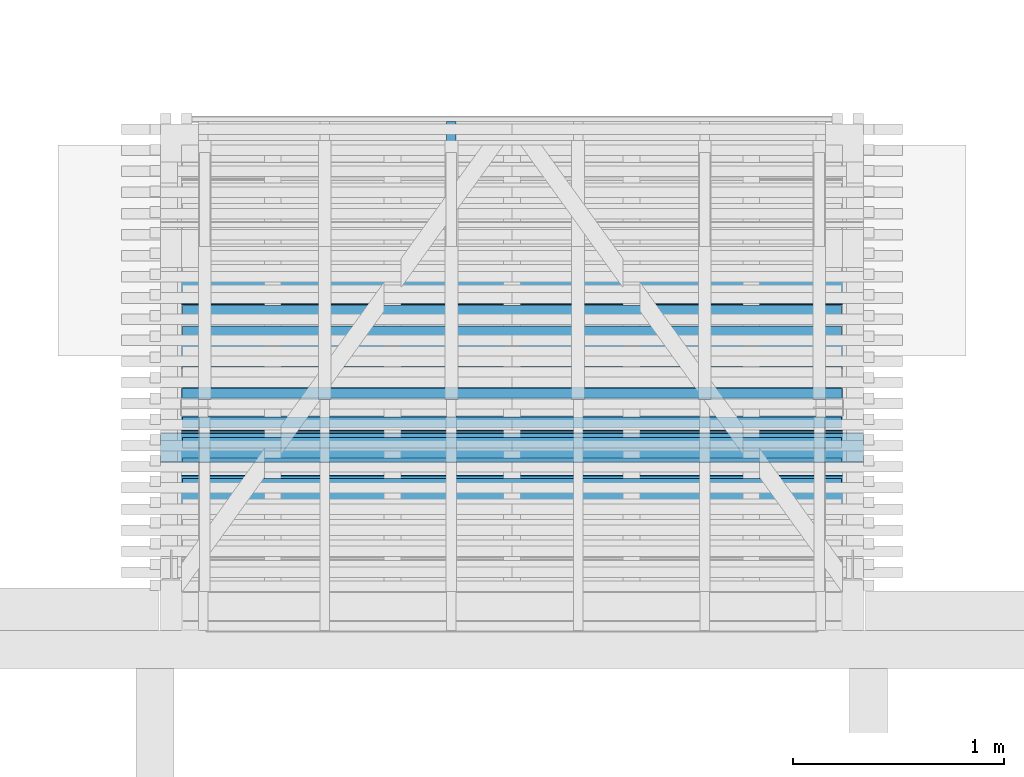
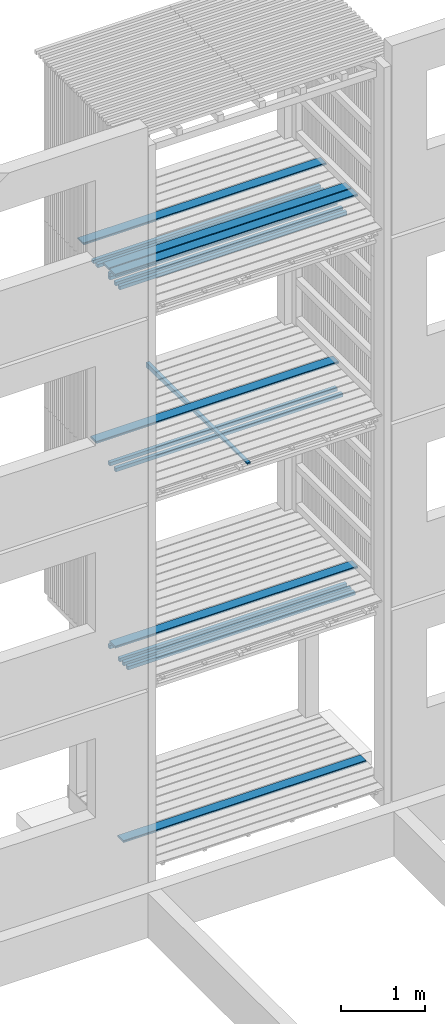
# One storey, part 98 of 182: 19 beams.
"""IFC2X3 building model written with IfcOpenShell, lengths in metres."""

from ifc_helpers import new_model, si_unit, frame, origin, place, context, project, spatial, faceted_brep, element, save


model = new_model("IFC2X3")

# Units and contexts
model_context = context("Model", 3, precision=1e-06, world=origin())
ifc_project = project(units=[si_unit("LENGTHUNIT", "METRE"), si_unit("PLANEANGLEUNIT", "RADIAN")], contexts=[model_context])

# Site, building, storey
site = spatial("IfcSite", under=ifc_project, CompositionType="ELEMENT")
building = spatial("IfcBuilding", under=site, CompositionType="ELEMENT")
storey = spatial("IfcBuildingStorey", under=building, Name="vs", CompositionType="ELEMENT", Elevation=-0.85)

# Beams
placement = place(None, origin())
beam_1_placement = place(placement, frame((46.34540135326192, 5.884577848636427, 8.13349999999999), z_axis=(0.0, 0.0, 1.0), x_axis=(-1.0, -8e-15, 0.0)))
element("IfcBeam", 1, at=beam_1_placement, inside=storey, Name="Caillebotis", context=model_context, shape_type="Brep", body=[
    faceted_brep([(3.329999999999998, -0.072500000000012, -0.013500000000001), (3.329999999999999, 0.072499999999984, -0.013500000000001), (3.329999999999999, 0.072499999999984, 0.008499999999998), (3.329999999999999, 0.067499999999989, 0.013499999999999), (3.329999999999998, -0.067500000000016, 0.013499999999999), (3.329999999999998, -0.072500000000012, 0.0085), (-1e-15, -0.072499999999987, 0.0085), (-1e-15, -0.067499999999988, 0.013499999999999), (1e-15, 0.067500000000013, 0.013499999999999), (1e-15, 0.072500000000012, 0.008499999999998), (1e-15, 0.072500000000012, -0.013500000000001), (-1e-15, -0.072499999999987, -0.013500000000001), (3.329999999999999, 0.072499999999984, 0.008499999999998), (3.329999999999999, 0.072499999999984, -0.013500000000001), (1e-15, 0.072500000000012, -0.013500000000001), (1e-15, 0.072500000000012, 0.008499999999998), (3.329999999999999, 0.067499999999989, 0.013499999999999), (3.329999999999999, 0.072499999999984, 0.008499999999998), (1e-15, 0.072500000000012, 0.008499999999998), (1e-15, 0.067500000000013, 0.013499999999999), (3.329999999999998, -0.067500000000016, 0.013499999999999), (3.329999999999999, 0.067499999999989, 0.013499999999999), (1e-15, 0.067500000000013, 0.013499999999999), (-1e-15, -0.067499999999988, 0.013499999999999), (3.329999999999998, -0.072500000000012, 0.0085), (3.329999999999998, -0.067500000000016, 0.013499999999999), (-1e-15, -0.067499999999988, 0.013499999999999), (-1e-15, -0.072499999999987, 0.0085), (3.329999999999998, -0.072500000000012, -0.013500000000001), (3.329999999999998, -0.072500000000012, 0.0085), (-1e-15, -0.072499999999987, 0.0085), (-1e-15, -0.072499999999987, -0.013500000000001), (1e-15, 0.072500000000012, -0.013500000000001), (3.329999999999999, 0.072499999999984, -0.013500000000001), (3.329999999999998, -0.072500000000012, -0.013500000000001), (-1e-15, -0.072499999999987, -0.013500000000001)], [[[0, 1, 2, 3, 4, 5]], [[6, 7, 8, 9, 10, 11]], [[12, 13, 14, 15]], [[16, 17, 18, 19]], [[20, 21, 22, 23]], [[24, 25, 26, 27]], [[28, 29, 30, 31]], [[32, 33, 34, 35]]]),
])
beam_2_placement = place(placement, frame((44.39340135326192, 4.870077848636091, 5.384400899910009), z_axis=(0.0, 0.0, 1.0), x_axis=(0.0, 1.0, 0.0)))
element("IfcBeam", 2, at=beam_2_placement, inside=storey, Name="Calage", context=model_context, shape_type="Brep", body=[
    faceted_brep([(2.410000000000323, -0.022499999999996, -0.035599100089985), (0.0, -0.022499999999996, 0.012600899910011), (0.0, 0.022500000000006, 0.012600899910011), (2.410000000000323, 0.022500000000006, -0.035599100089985), (0.0, 0.022500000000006, 0.035599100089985), (0.0, 0.022500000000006, 0.012600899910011), (0.0, -0.022499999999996, 0.012600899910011), (0.0, -0.022499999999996, 0.035599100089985), (2.410000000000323, 0.022500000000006, -0.035599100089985), (0.0, 0.022500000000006, 0.012600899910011), (0.0, 0.022500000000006, 0.035599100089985), (2.410000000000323, 0.022500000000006, 0.035599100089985), (2.410000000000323, -0.022499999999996, 0.035599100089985), (0.0, -0.022499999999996, 0.035599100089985), (0.0, -0.022499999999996, 0.012600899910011), (2.410000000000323, -0.022499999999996, -0.035599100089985), (2.410000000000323, 0.022500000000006, 0.035599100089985), (0.0, 0.022500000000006, 0.035599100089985), (0.0, -0.022499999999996, 0.035599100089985), (2.410000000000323, -0.022499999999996, 0.035599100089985), (2.410000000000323, 0.022500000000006, -0.035599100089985), (2.410000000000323, 0.022500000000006, 0.035599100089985), (2.410000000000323, -0.022499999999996, 0.035599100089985), (2.410000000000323, -0.022499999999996, -0.035599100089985)], [[[0, 1, 2, 3]], [[4, 5, 6, 7]], [[8, 9, 10, 11]], [[12, 13, 14, 15]], [[16, 17, 18, 19]], [[20, 21, 22, 23]]]),
])
beam_3_placement = place(placement, frame((43.11540135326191, 5.990077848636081, 7.917399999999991), z_axis=(0.0, 0.0, 1.0), x_axis=(1.0, 0.0, 0.0)))
element("IfcBeam", 3, at=beam_3_placement, inside=storey, Name="Ligneul", context=model_context, shape_type="Brep", body=[
    faceted_brep([(4e-15, -0.024999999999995, 0.024999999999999), (4e-15, -0.024999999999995, -0.025000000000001), (3.129999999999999, -0.024999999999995, -0.025000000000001), (3.129999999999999, -0.024999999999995, 0.024999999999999), (4e-15, 0.025000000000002, 0.024999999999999), (4e-15, -0.024999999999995, 0.024999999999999), (3.129999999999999, -0.024999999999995, 0.024999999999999), (3.129999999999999, 0.025000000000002, 0.024999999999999), (4e-15, -0.024999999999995, 0.024999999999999), (4e-15, 0.025000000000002, 0.024999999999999), (4e-15, 0.025000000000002, -0.025000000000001), (4e-15, -0.024999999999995, -0.025000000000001), (4e-15, 0.025000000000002, -0.025000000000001), (4e-15, 0.025000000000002, 0.024999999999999), (3.129999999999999, 0.025000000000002, 0.024999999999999), (3.129999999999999, 0.025000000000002, -0.025000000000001), (3.129999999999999, -0.024999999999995, -0.025000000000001), (4e-15, -0.024999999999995, -0.025000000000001), (4e-15, 0.025000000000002, -0.025000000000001), (3.129999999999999, 0.025000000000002, -0.025000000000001), (3.129999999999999, -0.024999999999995, 0.024999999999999), (3.129999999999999, -0.024999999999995, -0.025000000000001), (3.129999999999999, 0.025000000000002, -0.025000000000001), (3.129999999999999, 0.025000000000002, 0.024999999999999)], [[[0, 1, 2, 3]], [[4, 5, 6, 7]], [[8, 9, 10, 11]], [[12, 13, 14, 15]], [[16, 17, 18, 19]], [[20, 21, 22, 23]]]),
])
beam_4_placement = place(placement, frame((46.345401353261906, 6.184577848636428, 5.433499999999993), z_axis=(0.0, 0.0, 1.0), x_axis=(-1.0, -8e-15, 0.0)))
element("IfcBeam", 4, at=beam_4_placement, inside=storey, Name="Caillebotis", context=model_context, shape_type="Brep", body=[
    faceted_brep([(3.329999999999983, -0.072500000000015, -0.0135), (3.329999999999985, 0.072499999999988, -0.0135), (3.329999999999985, 0.072499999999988, 0.0085), (3.329999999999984, 0.067499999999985, 0.0135), (3.329999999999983, -0.067500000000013, 0.0135), (3.329999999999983, -0.072500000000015, 0.008500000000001), (-1.5e-14, -0.072499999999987, 0.008500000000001), (-1.5e-14, -0.067499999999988, 0.0135), (-1.4e-14, 0.067500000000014, 0.0135), (-1.4e-14, 0.072500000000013, 0.0085), (-1.4e-14, 0.072500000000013, -0.0135), (-1.5e-14, -0.072499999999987, -0.0135), (3.329999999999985, 0.072499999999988, 0.0085), (3.329999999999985, 0.072499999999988, -0.0135), (-1.4e-14, 0.072500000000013, -0.0135), (-1.4e-14, 0.072500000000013, 0.0085), (3.329999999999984, 0.067499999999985, 0.0135), (3.329999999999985, 0.072499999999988, 0.0085), (-1.4e-14, 0.072500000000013, 0.0085), (-1.4e-14, 0.067500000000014, 0.0135), (3.329999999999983, -0.067500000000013, 0.0135), (3.329999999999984, 0.067499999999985, 0.0135), (-1.4e-14, 0.067500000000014, 0.0135), (-1.5e-14, -0.067499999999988, 0.0135), (3.329999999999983, -0.072500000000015, 0.008500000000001), (3.329999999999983, -0.067500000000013, 0.0135), (-1.5e-14, -0.067499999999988, 0.0135), (-1.5e-14, -0.072499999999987, 0.008500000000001), (3.329999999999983, -0.072500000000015, -0.0135), (3.329999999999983, -0.072500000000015, 0.008500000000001), (-1.5e-14, -0.072499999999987, 0.008500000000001), (-1.5e-14, -0.072499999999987, -0.0135), (-1.4e-14, 0.072500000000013, -0.0135), (3.329999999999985, 0.072499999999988, -0.0135), (3.329999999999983, -0.072500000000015, -0.0135), (-1.5e-14, -0.072499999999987, -0.0135)], [[[0, 1, 2, 3, 4, 5]], [[6, 7, 8, 9, 10, 11]], [[12, 13, 14, 15]], [[16, 17, 18, 19]], [[20, 21, 22, 23]], [[24, 25, 26, 27]], [[28, 29, 30, 31]], [[32, 33, 34, 35]]]),
])
beam_5_placement = place(placement, frame((46.240401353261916, 5.758202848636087, 7.867999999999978), z_axis=(0.0, 0.0, 1.0), x_axis=(-1.0, -1e-15, 0.0)))
element("IfcBeam", 5, at=beam_5_placement, inside=storey, Name="Bardage", context=model_context, shape_type="Brep", body=[
    faceted_brep([(3.120000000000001, 0.024999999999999, -0.025000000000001), (3.120000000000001, -0.025000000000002, -0.025000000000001), (-3e-15, -0.025000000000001, -0.025000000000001), (-3e-15, 0.025000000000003, -0.025000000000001), (-3e-15, -0.025000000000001, -0.025000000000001), (3.120000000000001, -0.025000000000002, -0.025000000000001), (3.120000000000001, -0.025000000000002, 0.024999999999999), (-3e-15, -0.025000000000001, 0.024999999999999), (3.120000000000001, -0.025000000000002, -0.025000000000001), (3.120000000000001, 0.024999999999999, -0.025000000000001), (3.120000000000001, 0.024999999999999, 0.024999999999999), (3.120000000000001, -0.025000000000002, 0.024999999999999), (3.120000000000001, 0.024999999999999, 0.024999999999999), (3.120000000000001, 0.024999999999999, -0.025000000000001), (-3e-15, 0.025000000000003, -0.025000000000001), (-3e-15, 0.025000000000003, 0.024999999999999), (-3e-15, -0.025000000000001, 0.024999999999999), (3.120000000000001, -0.025000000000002, 0.024999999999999), (3.120000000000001, 0.024999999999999, 0.024999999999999), (-3e-15, 0.025000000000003, 0.024999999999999), (-3e-15, -0.025000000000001, -0.025000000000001), (-3e-15, -0.025000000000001, 0.024999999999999), (-3e-15, 0.025000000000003, 0.024999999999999), (-3e-15, 0.025000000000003, -0.025000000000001)], [[[0, 1, 2, 3]], [[4, 5, 6, 7]], [[8, 9, 10, 11]], [[12, 13, 14, 15]], [[16, 17, 18, 19]], [[20, 21, 22, 23]]]),
])
beam_6_placement = place(placement, frame((46.240401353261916, 5.661327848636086, 2.467999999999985), z_axis=(0.0, 0.0, 1.0), x_axis=(-1.0, 0.0, 0.0)))
element("IfcBeam", 6, at=beam_6_placement, inside=storey, Name="Bardage", context=model_context, shape_type="Brep", body=[
    faceted_brep([(3.120000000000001, 0.024999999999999, -0.025), (3.120000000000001, -0.024999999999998, -0.025), (-3e-15, -0.025000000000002, -0.025), (-3e-15, 0.024999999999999, -0.025), (-3e-15, -0.025000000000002, -0.025), (3.120000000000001, -0.024999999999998, -0.025), (3.120000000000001, -0.024999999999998, 0.025), (-3e-15, -0.025000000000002, 0.025), (3.120000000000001, -0.024999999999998, -0.025), (3.120000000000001, 0.024999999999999, -0.025), (3.120000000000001, 0.024999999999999, 0.025), (3.120000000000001, -0.024999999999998, 0.025), (3.120000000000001, 0.024999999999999, 0.025), (3.120000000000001, 0.024999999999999, -0.025), (-3e-15, 0.024999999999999, -0.025), (-3e-15, 0.024999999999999, 0.025), (-3e-15, -0.025000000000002, 0.025), (3.120000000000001, -0.024999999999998, 0.025), (3.120000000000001, 0.024999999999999, 0.025), (-3e-15, 0.024999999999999, 0.025), (-3e-15, -0.025000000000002, -0.025), (-3e-15, -0.025000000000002, 0.025), (-3e-15, 0.024999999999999, 0.025), (-3e-15, 0.024999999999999, -0.025)], [[[0, 1, 2, 3]], [[4, 5, 6, 7]], [[8, 9, 10, 11]], [[12, 13, 14, 15]], [[16, 17, 18, 19]], [[20, 21, 22, 23]]]),
])
beam_7_placement = place(placement, frame((46.240401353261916, 5.995077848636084, 5.167399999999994), z_axis=(0.0, 0.0, 1.0), x_axis=(-1.0, 0.0, 0.0)))
element("IfcBeam", 7, at=beam_7_placement, inside=storey, Name="Bardage", context=model_context, shape_type="Brep", body=[
    faceted_brep([(-3e-15, 0.024999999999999, -0.025), (-3e-15, -0.025000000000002, -0.025), (-3e-15, -0.025000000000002, 0.025), (-3e-15, 0.024999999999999, 0.025), (3.120000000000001, -0.025000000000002, 0.025), (3.120000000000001, -0.025000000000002, -0.025), (3.120000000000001, 0.025000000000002, -0.025), (3.120000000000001, 0.025000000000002, 0.025), (3.120000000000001, -0.025000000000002, -0.025), (3.120000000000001, -0.025000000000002, 0.025), (-3e-15, -0.025000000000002, 0.025), (-3e-15, -0.025000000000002, -0.025), (3.120000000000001, 0.025000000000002, -0.025), (3.120000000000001, -0.025000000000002, -0.025), (-3e-15, -0.025000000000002, -0.025), (-3e-15, 0.024999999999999, -0.025), (3.120000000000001, 0.025000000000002, 0.025), (3.120000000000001, 0.025000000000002, -0.025), (-3e-15, 0.024999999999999, -0.025), (-3e-15, 0.024999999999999, 0.025), (3.120000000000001, -0.025000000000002, 0.025), (3.120000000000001, 0.025000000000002, 0.025), (-3e-15, 0.024999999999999, 0.025), (-3e-15, -0.025000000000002, 0.025)], [[[0, 1, 2, 3]], [[4, 5, 6, 7]], [[8, 9, 10, 11]], [[12, 13, 14, 15]], [[16, 17, 18, 19]], [[20, 21, 22, 23]]]),
])
beam_8_placement = place(placement, frame((43.11540135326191, 5.990077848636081, 2.517399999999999), z_axis=(0.0, 0.0, 1.0), x_axis=(1.0, 0.0, 0.0)))
element("IfcBeam", 8, at=beam_8_placement, inside=storey, Name="Ligneul", context=model_context, shape_type="Brep", body=[
    faceted_brep([(4e-15, -0.024999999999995, 0.025), (4e-15, -0.024999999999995, -0.025), (3.129999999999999, -0.024999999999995, -0.025), (3.129999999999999, -0.024999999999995, 0.025), (4e-15, 0.025000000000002, 0.025), (4e-15, -0.024999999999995, 0.025), (3.129999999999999, -0.024999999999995, 0.025), (3.129999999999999, 0.025000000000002, 0.025), (4e-15, -0.024999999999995, 0.025), (4e-15, 0.025000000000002, 0.025), (4e-15, 0.025000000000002, -0.025), (4e-15, -0.024999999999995, -0.025), (4e-15, 0.025000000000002, -0.025), (4e-15, 0.025000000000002, 0.025), (3.129999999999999, 0.025000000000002, 0.025), (3.129999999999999, 0.025000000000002, -0.025), (3.129999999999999, -0.024999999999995, -0.025), (4e-15, -0.024999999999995, -0.025), (4e-15, 0.025000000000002, -0.025), (3.129999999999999, 0.025000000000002, -0.025), (3.129999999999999, -0.024999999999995, 0.025), (3.129999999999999, -0.024999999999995, -0.025), (3.129999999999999, 0.025000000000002, -0.025), (3.129999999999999, 0.025000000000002, 0.025)], [[[0, 1, 2, 3]], [[4, 5, 6, 7]], [[8, 9, 10, 11]], [[12, 13, 14, 15]], [[16, 17, 18, 19]], [[20, 21, 22, 23]]]),
])
beam_9_placement = place(placement, frame((46.240401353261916, 6.38341118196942, 7.86739999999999), z_axis=(0.0, 0.0, 1.0), x_axis=(-1.0, 0.0, 0.0)))
element("IfcBeam", 9, at=beam_9_placement, inside=storey, Name="Bardage", context=model_context, shape_type="Brep", body=[
    faceted_brep([(3.120000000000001, 0.025000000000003, -0.024999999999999), (3.120000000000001, 0.025000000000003, 0.025000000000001), (3.120000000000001, -0.025000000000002, 0.025000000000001), (3.120000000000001, -0.025000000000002, -0.024999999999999), (-3e-15, -0.025000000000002, -0.024999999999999), (-3e-15, -0.025000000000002, 0.025000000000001), (-3e-15, 0.024999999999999, 0.025000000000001), (-3e-15, 0.024999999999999, -0.024999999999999), (-3e-15, 0.024999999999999, -0.024999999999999), (-3e-15, 0.024999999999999, 0.025000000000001), (3.120000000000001, 0.025000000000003, 0.025000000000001), (3.120000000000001, 0.025000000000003, -0.024999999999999), (-3e-15, 0.024999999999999, 0.025000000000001), (-3e-15, -0.025000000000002, 0.025000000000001), (3.120000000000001, -0.025000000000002, 0.025000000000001), (3.120000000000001, 0.025000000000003, 0.025000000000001), (-3e-15, -0.025000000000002, 0.025000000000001), (-3e-15, -0.025000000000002, -0.024999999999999), (3.120000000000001, -0.025000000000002, -0.024999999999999), (3.120000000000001, -0.025000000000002, 0.025000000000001), (-3e-15, -0.025000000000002, -0.024999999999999), (-3e-15, 0.024999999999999, -0.024999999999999), (3.120000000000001, 0.025000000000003, -0.024999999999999), (3.120000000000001, -0.025000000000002, -0.024999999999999)], [[[0, 1, 2, 3]], [[4, 5, 6, 7]], [[8, 9, 10, 11]], [[12, 13, 14, 15]], [[16, 17, 18, 19]], [[20, 21, 22, 23]]]),
])
beam_10_placement = place(placement, frame((46.34540135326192, 5.734577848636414, 8.13349999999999), z_axis=(0.0, 0.0, 1.0), x_axis=(-1.0, 0.0, 0.0)))
element("IfcBeam", 10, at=beam_10_placement, inside=storey, Name="Caillebotis", context=model_context, shape_type="Brep", body=[
    faceted_brep([(3.329999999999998, -0.072499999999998, -0.013500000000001), (3.329999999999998, 0.072500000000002, -0.013500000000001), (3.329999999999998, 0.072500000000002, 0.008499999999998), (3.329999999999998, 0.067500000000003, 0.013499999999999), (3.329999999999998, -0.067500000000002, 0.013499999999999), (3.329999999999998, -0.072499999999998, 0.0085), (0.0, -0.072499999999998, 0.0085), (0.0, -0.067500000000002, 0.013499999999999), (0.0, 0.067500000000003, 0.013499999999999), (0.0, 0.072499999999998, 0.008499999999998), (0.0, 0.072499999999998, -0.013500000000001), (0.0, -0.072499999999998, -0.013500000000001), (3.329999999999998, 0.072500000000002, 0.008499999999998), (3.329999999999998, 0.072500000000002, -0.013500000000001), (0.0, 0.072499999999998, -0.013500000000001), (0.0, 0.072499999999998, 0.008499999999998), (3.329999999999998, 0.067500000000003, 0.013499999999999), (3.329999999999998, 0.072500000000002, 0.008499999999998), (0.0, 0.072499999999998, 0.008499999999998), (0.0, 0.067500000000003, 0.013499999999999), (3.329999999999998, -0.067500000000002, 0.013499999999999), (3.329999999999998, 0.067500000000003, 0.013499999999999), (0.0, 0.067500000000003, 0.013499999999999), (0.0, -0.067500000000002, 0.013499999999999), (3.329999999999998, -0.072499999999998, 0.0085), (3.329999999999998, -0.067500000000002, 0.013499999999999), (0.0, -0.067500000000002, 0.013499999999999), (0.0, -0.072499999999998, 0.0085), (3.329999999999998, -0.072499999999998, -0.013500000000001), (3.329999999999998, -0.072499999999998, 0.0085), (0.0, -0.072499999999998, 0.0085), (0.0, -0.072499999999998, -0.013500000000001), (0.0, 0.072499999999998, -0.013500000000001), (3.329999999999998, 0.072500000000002, -0.013500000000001), (3.329999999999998, -0.072499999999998, -0.013500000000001), (0.0, -0.072499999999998, -0.013500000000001)], [[[0, 1, 2, 3, 4, 5]], [[6, 7, 8, 9, 10, 11]], [[12, 13, 14, 15]], [[16, 17, 18, 19]], [[20, 21, 22, 23]], [[24, 25, 26, 27]], [[28, 29, 30, 31]], [[32, 33, 34, 35]]]),
])
beam_11_placement = place(placement, frame((46.240401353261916, 5.855077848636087, 7.867999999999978), z_axis=(0.0, 0.0, 1.0), x_axis=(-1.0, -1e-15, 0.0)))
element("IfcBeam", 11, at=beam_11_placement, inside=storey, Name="Bardage", context=model_context, shape_type="Brep", body=[
    faceted_brep([(3.120000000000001, 0.025000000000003, -0.025000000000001), (3.120000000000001, -0.025000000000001, -0.025000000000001), (-3e-15, -0.024999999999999, -0.025000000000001), (-3e-15, 0.025000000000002, -0.025000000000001), (-3e-15, -0.024999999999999, -0.025000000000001), (3.120000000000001, -0.025000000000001, -0.025000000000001), (3.120000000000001, -0.025000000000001, 0.024999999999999), (-3e-15, -0.024999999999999, 0.024999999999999), (3.120000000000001, -0.025000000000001, -0.025000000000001), (3.120000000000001, 0.025000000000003, -0.025000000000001), (3.120000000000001, 0.025000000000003, 0.024999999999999), (3.120000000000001, -0.025000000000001, 0.024999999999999), (3.120000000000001, 0.025000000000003, 0.024999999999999), (3.120000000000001, 0.025000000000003, -0.025000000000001), (-3e-15, 0.025000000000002, -0.025000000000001), (-3e-15, 0.025000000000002, 0.024999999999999), (-3e-15, -0.024999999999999, 0.024999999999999), (3.120000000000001, -0.025000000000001, 0.024999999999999), (3.120000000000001, 0.025000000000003, 0.024999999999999), (-3e-15, 0.025000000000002, 0.024999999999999), (-3e-15, -0.024999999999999, -0.025000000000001), (-3e-15, -0.024999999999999, 0.024999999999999), (-3e-15, 0.025000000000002, 0.024999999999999), (-3e-15, 0.025000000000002, -0.025000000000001)], [[[0, 1, 2, 3]], [[4, 5, 6, 7]], [[8, 9, 10, 11]], [[12, 13, 14, 15]], [[16, 17, 18, 19]], [[20, 21, 22, 23]]]),
])
beam_12_placement = place(placement, frame((46.34540135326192, 6.484577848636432, 8.133499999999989), z_axis=(0.0, 0.0, 1.0), x_axis=(-1.0, -1e-14, 0.0)))
element("IfcBeam", 12, at=beam_12_placement, inside=storey, Name="Caillebotis", context=model_context, shape_type="Brep", body=[
    faceted_brep([(3.329999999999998, -0.072500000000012, -0.013499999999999), (3.329999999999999, 0.072499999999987, -0.013499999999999), (3.329999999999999, 0.072499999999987, 0.0085), (3.329999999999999, 0.067499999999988, 0.013500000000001), (3.329999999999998, -0.067500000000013, 0.013500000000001), (3.329999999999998, -0.072500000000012, 0.008500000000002), (-1e-15, -0.07249999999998, 0.008500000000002), (-1e-15, -0.067499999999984, 0.013500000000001), (1e-15, 0.067500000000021, 0.013500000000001), (1e-15, 0.072500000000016, 0.0085), (1e-15, 0.072500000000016, -0.013499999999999), (-1e-15, -0.07249999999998, -0.013499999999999), (3.329999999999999, 0.072499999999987, 0.0085), (3.329999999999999, 0.072499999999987, -0.013499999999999), (1e-15, 0.072500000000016, -0.013499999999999), (1e-15, 0.072500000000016, 0.0085), (3.329999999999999, 0.067499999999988, 0.013500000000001), (3.329999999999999, 0.072499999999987, 0.0085), (1e-15, 0.072500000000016, 0.0085), (1e-15, 0.067500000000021, 0.013500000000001), (3.329999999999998, -0.067500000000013, 0.013500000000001), (3.329999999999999, 0.067499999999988, 0.013500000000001), (1e-15, 0.067500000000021, 0.013500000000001), (-1e-15, -0.067499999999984, 0.013500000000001), (3.329999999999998, -0.072500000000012, 0.008500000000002), (3.329999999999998, -0.067500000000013, 0.013500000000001), (-1e-15, -0.067499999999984, 0.013500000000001), (-1e-15, -0.07249999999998, 0.008500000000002), (3.329999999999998, -0.072500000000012, -0.013499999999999), (3.329999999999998, -0.072500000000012, 0.008500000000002), (-1e-15, -0.07249999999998, 0.008500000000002), (-1e-15, -0.07249999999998, -0.013499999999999), (1e-15, 0.072500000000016, -0.013499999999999), (3.329999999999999, 0.072499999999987, -0.013499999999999), (3.329999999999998, -0.072500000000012, -0.013499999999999), (-1e-15, -0.07249999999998, -0.013499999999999)], [[[0, 1, 2, 3, 4, 5]], [[6, 7, 8, 9, 10, 11]], [[12, 13, 14, 15]], [[16, 17, 18, 19]], [[20, 21, 22, 23]], [[24, 25, 26, 27]], [[28, 29, 30, 31]], [[32, 33, 34, 35]]]),
])
beam_13_placement = place(placement, frame((46.240401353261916, 5.758202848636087, 2.467999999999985), z_axis=(0.0, 0.0, 1.0), x_axis=(-1.0, -1e-15, 0.0)))
element("IfcBeam", 13, at=beam_13_placement, inside=storey, Name="Bardage", context=model_context, shape_type="Brep", body=[
    faceted_brep([(3.120000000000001, 0.024999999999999, -0.025), (3.120000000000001, -0.025000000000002, -0.025), (-3e-15, -0.025000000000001, -0.025), (-3e-15, 0.025000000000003, -0.025), (-3e-15, -0.025000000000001, -0.025), (3.120000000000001, -0.025000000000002, -0.025), (3.120000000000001, -0.025000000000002, 0.025), (-3e-15, -0.025000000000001, 0.025), (3.120000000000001, -0.025000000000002, -0.025), (3.120000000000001, 0.024999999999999, -0.025), (3.120000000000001, 0.024999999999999, 0.025), (3.120000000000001, -0.025000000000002, 0.025), (3.120000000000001, 0.024999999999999, 0.025), (3.120000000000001, 0.024999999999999, -0.025), (-3e-15, 0.025000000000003, -0.025), (-3e-15, 0.025000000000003, 0.025), (-3e-15, -0.025000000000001, 0.025), (3.120000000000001, -0.025000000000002, 0.025), (3.120000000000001, 0.024999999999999, 0.025), (-3e-15, 0.025000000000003, 0.025), (-3e-15, -0.025000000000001, -0.025), (-3e-15, -0.025000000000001, 0.025), (-3e-15, 0.025000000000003, 0.025), (-3e-15, 0.025000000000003, -0.025)], [[[0, 1, 2, 3]], [[4, 5, 6, 7]], [[8, 9, 10, 11]], [[12, 13, 14, 15]], [[16, 17, 18, 19]], [[20, 21, 22, 23]]]),
])
beam_14_placement = place(placement, frame((46.240401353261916, 5.995077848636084, 7.86739999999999), z_axis=(0.0, 0.0, 1.0), x_axis=(-1.0, 0.0, 0.0)))
element("IfcBeam", 14, at=beam_14_placement, inside=storey, Name="Bardage", context=model_context, shape_type="Brep", body=[
    faceted_brep([(-3e-15, 0.024999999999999, -0.024999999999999), (-3e-15, -0.025000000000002, -0.024999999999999), (-3e-15, -0.025000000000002, 0.025000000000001), (-3e-15, 0.024999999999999, 0.025000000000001), (3.120000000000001, -0.025000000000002, 0.025000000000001), (3.120000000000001, -0.025000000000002, -0.024999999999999), (3.120000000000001, 0.025000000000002, -0.024999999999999), (3.120000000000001, 0.025000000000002, 0.025000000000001), (3.120000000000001, -0.025000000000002, -0.024999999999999), (3.120000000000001, -0.025000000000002, 0.025000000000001), (-3e-15, -0.025000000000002, 0.025000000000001), (-3e-15, -0.025000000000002, -0.024999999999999), (3.120000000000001, 0.025000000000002, -0.024999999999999), (3.120000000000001, -0.025000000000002, -0.024999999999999), (-3e-15, -0.025000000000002, -0.024999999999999), (-3e-15, 0.024999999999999, -0.024999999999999), (3.120000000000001, 0.025000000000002, 0.025000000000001), (3.120000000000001, 0.025000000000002, -0.024999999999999), (-3e-15, 0.024999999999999, -0.024999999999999), (-3e-15, 0.024999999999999, 0.025000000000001), (3.120000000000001, -0.025000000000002, 0.025000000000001), (3.120000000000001, 0.025000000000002, 0.025000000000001), (-3e-15, 0.024999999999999, 0.025000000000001), (-3e-15, -0.025000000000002, 0.025000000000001)], [[[0, 1, 2, 3]], [[4, 5, 6, 7]], [[8, 9, 10, 11]], [[12, 13, 14, 15]], [[16, 17, 18, 19]], [[20, 21, 22, 23]]]),
])
beam_15_placement = place(placement, frame((46.240401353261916, 5.855077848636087, 5.167999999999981), z_axis=(0.0, 0.0, 1.0), x_axis=(-1.0, -1e-15, 0.0)))
element("IfcBeam", 15, at=beam_15_placement, inside=storey, Name="Bardage", context=model_context, shape_type="Brep", body=[
    faceted_brep([(3.120000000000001, 0.025000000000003, -0.025), (3.120000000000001, -0.025000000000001, -0.025), (-3e-15, -0.024999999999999, -0.025), (-3e-15, 0.025000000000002, -0.025), (-3e-15, -0.024999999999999, -0.025), (3.120000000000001, -0.025000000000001, -0.025), (3.120000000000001, -0.025000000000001, 0.025000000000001), (-3e-15, -0.024999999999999, 0.025000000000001), (3.120000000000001, -0.025000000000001, -0.025), (3.120000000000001, 0.025000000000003, -0.025), (3.120000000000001, 0.025000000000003, 0.025000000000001), (3.120000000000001, -0.025000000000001, 0.025000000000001), (3.120000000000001, 0.025000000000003, 0.025000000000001), (3.120000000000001, 0.025000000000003, -0.025), (-3e-15, 0.025000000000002, -0.025), (-3e-15, 0.025000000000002, 0.025000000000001), (-3e-15, -0.024999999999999, 0.025000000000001), (3.120000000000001, -0.025000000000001, 0.025000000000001), (3.120000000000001, 0.025000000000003, 0.025000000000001), (-3e-15, 0.025000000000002, 0.025000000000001), (-3e-15, -0.024999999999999, -0.025), (-3e-15, -0.024999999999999, 0.025000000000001), (-3e-15, 0.025000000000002, 0.025000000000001), (-3e-15, 0.025000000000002, -0.025)], [[[0, 1, 2, 3]], [[4, 5, 6, 7]], [[8, 9, 10, 11]], [[12, 13, 14, 15]], [[16, 17, 18, 19]], [[20, 21, 22, 23]]]),
])
beam_16_placement = place(placement, frame((46.34540135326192, 5.734577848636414, 2.733499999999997), z_axis=(0.0, 0.0, 1.0), x_axis=(-1.0, 0.0, 0.0)))
element("IfcBeam", 16, at=beam_16_placement, inside=storey, Name="Caillebotis", context=model_context, shape_type="Brep", body=[
    faceted_brep([(3.329999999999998, -0.072499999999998, -0.0135), (3.329999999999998, 0.072500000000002, -0.0135), (3.329999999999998, 0.072500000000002, 0.0085), (3.329999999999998, 0.067500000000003, 0.0135), (3.329999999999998, -0.067500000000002, 0.0135), (3.329999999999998, -0.072499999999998, 0.008500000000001), (0.0, -0.072499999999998, 0.008500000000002), (0.0, -0.067500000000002, 0.0135), (0.0, 0.067499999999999, 0.013500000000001), (0.0, 0.072499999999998, 0.0085), (0.0, 0.072499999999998, -0.0135), (0.0, -0.072499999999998, -0.0135), (3.329999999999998, 0.072500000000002, 0.0085), (3.329999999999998, 0.072500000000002, -0.0135), (0.0, 0.072499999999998, -0.0135), (0.0, 0.072499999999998, 0.0085), (3.329999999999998, 0.067500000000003, 0.0135), (3.329999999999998, 0.072500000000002, 0.0085), (0.0, 0.072499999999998, 0.0085), (0.0, 0.067499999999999, 0.013500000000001), (3.329999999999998, -0.067500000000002, 0.0135), (3.329999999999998, 0.067500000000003, 0.0135), (0.0, 0.067499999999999, 0.013500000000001), (0.0, -0.067500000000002, 0.0135), (3.329999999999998, -0.072499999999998, 0.008500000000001), (3.329999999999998, -0.067500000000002, 0.0135), (0.0, -0.067500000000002, 0.0135), (0.0, -0.072499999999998, 0.008500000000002), (3.329999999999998, -0.072499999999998, -0.0135), (3.329999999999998, -0.072499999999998, 0.008500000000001), (0.0, -0.072499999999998, 0.008500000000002), (0.0, -0.072499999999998, -0.0135), (0.0, 0.072499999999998, -0.0135), (3.329999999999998, 0.072500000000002, -0.0135), (3.329999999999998, -0.072499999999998, -0.0135), (0.0, -0.072499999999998, -0.0135)], [[[0, 1, 2, 3, 4, 5]], [[6, 7, 8, 9, 10, 11]], [[12, 13, 14, 15]], [[16, 17, 18, 19]], [[20, 21, 22, 23]], [[24, 25, 26, 27]], [[28, 29, 30, 31]], [[32, 33, 34, 35]]]),
])
beam_17_placement = place(placement, frame((46.345401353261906, 5.534577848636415, 0.033500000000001), z_axis=(0.0, 0.0, 1.0), x_axis=(-1.0, -1e-15, 0.0)))
element("IfcBeam", 17, at=beam_17_placement, inside=storey, Name="Caillebotis", context=model_context, shape_type="Brep", body=[
    faceted_brep([(3.329999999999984, -0.067500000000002, 0.0135), (3.329999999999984, -0.072500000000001, 0.008500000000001), (3.329999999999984, -0.072500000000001, -0.013500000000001), (3.329999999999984, 0.072499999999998, -0.013500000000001), (3.329999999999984, 0.072499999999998, 0.0085), (3.329999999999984, 0.067499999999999, 0.0135), (0.0, 0.067499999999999, 0.0135), (0.0, 0.072500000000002, 0.0085), (0.0, 0.072500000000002, -0.013500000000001), (0.0, -0.072500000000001, -0.013500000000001), (0.0, -0.072500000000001, 0.008500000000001), (0.0, -0.067499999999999, 0.0135), (3.329999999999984, -0.072500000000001, -0.013500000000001), (3.329999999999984, -0.072500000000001, 0.008500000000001), (0.0, -0.072500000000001, 0.008500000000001), (0.0, -0.072500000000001, -0.013500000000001), (3.329999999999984, 0.072499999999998, -0.013500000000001), (3.329999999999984, -0.072500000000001, -0.013500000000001), (0.0, -0.072500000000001, -0.013500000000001), (0.0, 0.072500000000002, -0.013500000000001), (3.329999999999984, 0.072499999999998, 0.0085), (3.329999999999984, 0.072499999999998, -0.013500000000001), (0.0, 0.072500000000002, -0.013500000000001), (0.0, 0.072500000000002, 0.0085), (3.329999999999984, 0.067499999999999, 0.0135), (3.329999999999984, 0.072499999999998, 0.0085), (0.0, 0.072500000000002, 0.0085), (0.0, 0.067499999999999, 0.0135), (3.329999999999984, -0.067500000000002, 0.0135), (3.329999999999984, 0.067499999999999, 0.0135), (0.0, 0.067499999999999, 0.0135), (0.0, -0.067499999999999, 0.0135), (0.0, -0.072500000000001, 0.008500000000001), (3.329999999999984, -0.072500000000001, 0.008500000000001), (3.329999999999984, -0.067500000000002, 0.0135), (0.0, -0.067499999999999, 0.0135)], [[[0, 1, 2, 3, 4, 5]], [[6, 7, 8, 9, 10, 11]], [[12, 13, 14, 15]], [[16, 17, 18, 19]], [[20, 21, 22, 23]], [[24, 25, 26, 27]], [[28, 29, 30, 31]], [[32, 33, 34, 35]]]),
])
beam_18_placement = place(placement, frame((46.240401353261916, 6.286327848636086, 7.86739999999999), z_axis=(0.0, 0.0, 1.0), x_axis=(-1.0, 0.0, 0.0)))
element("IfcBeam", 18, at=beam_18_placement, inside=storey, Name="Bardage", context=model_context, shape_type="Brep", body=[
    faceted_brep([(3.120000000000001, 0.024999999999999, -0.024999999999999), (3.120000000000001, 0.024999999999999, 0.025000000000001), (3.120000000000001, -0.024999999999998, 0.025000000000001), (3.120000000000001, -0.024999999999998, -0.024999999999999), (-3e-15, -0.025000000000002, -0.024999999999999), (-3e-15, -0.025000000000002, 0.025000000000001), (-3e-15, 0.024999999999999, 0.025000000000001), (-3e-15, 0.024999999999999, -0.024999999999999), (-3e-15, 0.024999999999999, -0.024999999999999), (-3e-15, 0.024999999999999, 0.025000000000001), (3.120000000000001, 0.024999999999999, 0.025000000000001), (3.120000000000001, 0.024999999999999, -0.024999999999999), (-3e-15, 0.024999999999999, 0.025000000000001), (-3e-15, -0.025000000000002, 0.025000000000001), (3.120000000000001, -0.024999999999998, 0.025000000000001), (3.120000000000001, 0.024999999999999, 0.025000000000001), (-3e-15, -0.025000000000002, 0.025000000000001), (-3e-15, -0.025000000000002, -0.024999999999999), (3.120000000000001, -0.024999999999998, -0.024999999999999), (3.120000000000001, -0.024999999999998, 0.025000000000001), (-3e-15, -0.025000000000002, -0.024999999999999), (-3e-15, 0.024999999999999, -0.024999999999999), (3.120000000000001, 0.024999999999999, -0.024999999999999), (3.120000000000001, -0.024999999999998, -0.024999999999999)], [[[0, 1, 2, 3]], [[4, 5, 6, 7]], [[8, 9, 10, 11]], [[12, 13, 14, 15]], [[16, 17, 18, 19]], [[20, 21, 22, 23]]]),
])
beam_19_placement = place(placement, frame((46.240401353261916, 5.564452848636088, 2.467999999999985), z_axis=(0.0, 0.0, 1.0), x_axis=(-1.0, 0.0, 0.0)))
element("IfcBeam", 19, at=beam_19_placement, inside=storey, Name="Bardage", context=model_context, shape_type="Brep", body=[
    faceted_brep([(3.120000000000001, 0.025000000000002, -0.025), (3.120000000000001, -0.024999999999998, -0.025), (-3e-15, -0.024999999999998, -0.025), (-3e-15, 0.024999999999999, -0.025), (-3e-15, -0.024999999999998, -0.025), (3.120000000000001, -0.024999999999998, -0.025), (3.120000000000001, -0.024999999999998, 0.025), (-3e-15, -0.024999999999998, 0.025), (3.120000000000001, -0.024999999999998, -0.025), (3.120000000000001, 0.025000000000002, -0.025), (3.120000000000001, 0.025000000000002, 0.025), (3.120000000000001, -0.024999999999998, 0.025), (3.120000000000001, 0.025000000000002, 0.025), (3.120000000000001, 0.025000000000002, -0.025), (-3e-15, 0.024999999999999, -0.025), (-3e-15, 0.024999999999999, 0.025), (-3e-15, -0.024999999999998, 0.025), (3.120000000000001, -0.024999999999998, 0.025), (3.120000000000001, 0.025000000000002, 0.025), (-3e-15, 0.024999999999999, 0.025), (-3e-15, -0.024999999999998, -0.025), (-3e-15, -0.024999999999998, 0.025), (-3e-15, 0.024999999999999, 0.025), (-3e-15, 0.024999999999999, -0.025)], [[[0, 1, 2, 3]], [[4, 5, 6, 7]], [[8, 9, 10, 11]], [[12, 13, 14, 15]], [[16, 17, 18, 19]], [[20, 21, 22, 23]]]),
])

save(model, "model.ifc")
